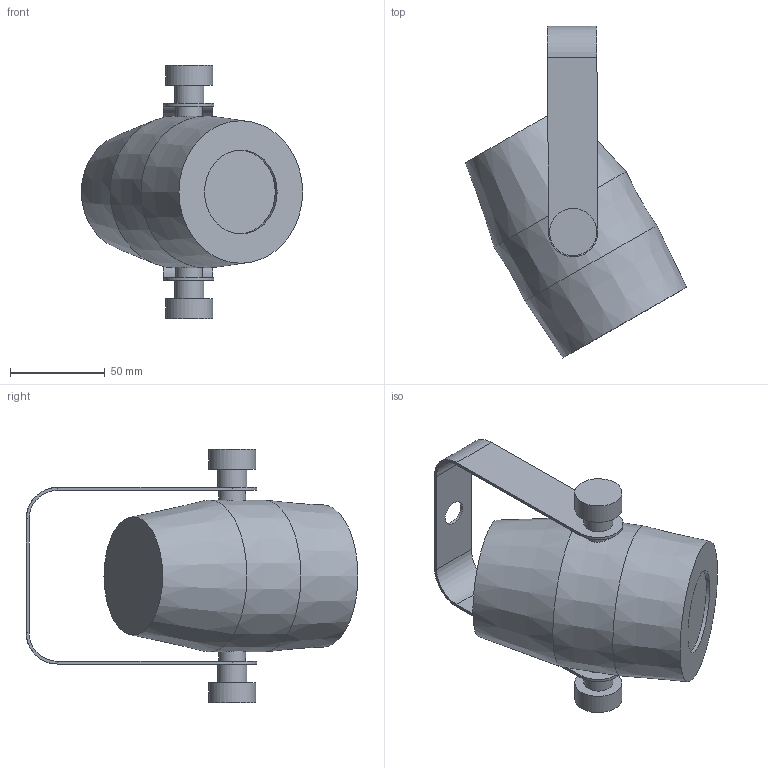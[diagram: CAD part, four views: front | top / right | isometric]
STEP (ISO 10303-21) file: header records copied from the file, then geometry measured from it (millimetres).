
FILE_DESCRIPTION(/* description */ (''),/* implementation_level */ '2;1');
FILE_NAME(/* name */ 'D:/dgooch/Documents/CADENG/PRO/Colordash Accent 3/30/3D/Colordash Accent 3_30.step',/* time_stamp */ '2019-09-11T14:23:55-04:00',/* author */ (''),/* organization */ (''),/* preprocessor_version */ 'ST-DEVELOPER v18',/* originating_system */ 'Autodesk Translation Framework v8.6.0.1094',/* authorisation */ '');
FILE_SCHEMA (('AUTOMOTIVE_DESIGN { 1 0 10303 214 3 1 1 }'));
Length unit declared in the file: millimetre
Products named in the file (3): Colordash Accent 3; Bracket; Main
Assembly tree (2 placements, depth 2):
  Colordash Accent 3
    Bracket
    Main
Bounding box: 116.52 x 174.75 x 133.24 mm (x, y, z)
Volume: 542531.3 mm3; surface area: 56969.6 mm2
Topology: 3 solids, 3 shells, 45 faces, 97 edges, 64 vertices
Faces by surface type: plane 27, cylinder 15, cone 3
Full cylindrical faces by diameter (mm): 5.2 x1, 13 x1, 14 x2, 15.313 x2, 24.873 x2, 44 x1
Entity records: 1389 total; most frequent: CARTESIAN_POINT 280, DIRECTION 239, ORIENTED_EDGE 194, EDGE_CURVE 97, AXIS2_PLACEMENT_3D 97, VERTEX_POINT 64, EDGE_LOOP 53, CIRCLE 47
